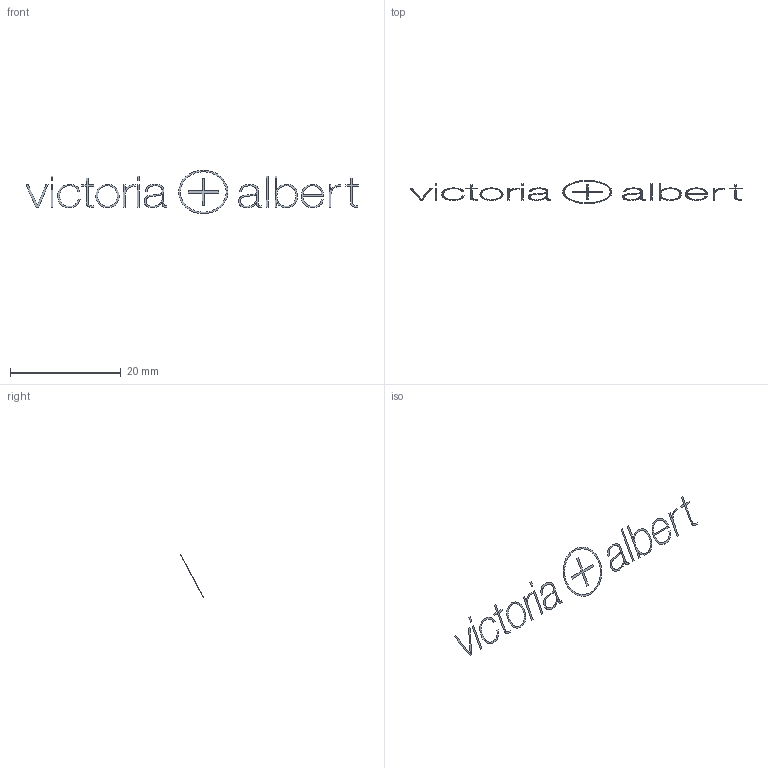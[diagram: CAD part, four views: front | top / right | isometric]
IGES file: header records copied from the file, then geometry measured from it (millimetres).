
Start section: SolidWorks IGES file using analytic representation for surfaces
Global section: file name: C:\Users\ccai\Desktop\CeliaC\Projects\250126-7126-02968 Neutral file KER-N-SW-IO\sku_ker-n-sw-io_igs.IGS; native system: SolidWorks 2023; preprocessor: SolidWorks 2023; author: ccai; date: 250122.142127; units: metre
Bounding box: 60 x 4.19 x 7.85 mm (x, y, z)
Surface area: 61.2 mm2 (no closed solid volume)
Topology: 0 solids, 0 shells, 18 faces, 329 edges, 329 vertices
Faces by surface type: bspline 18
